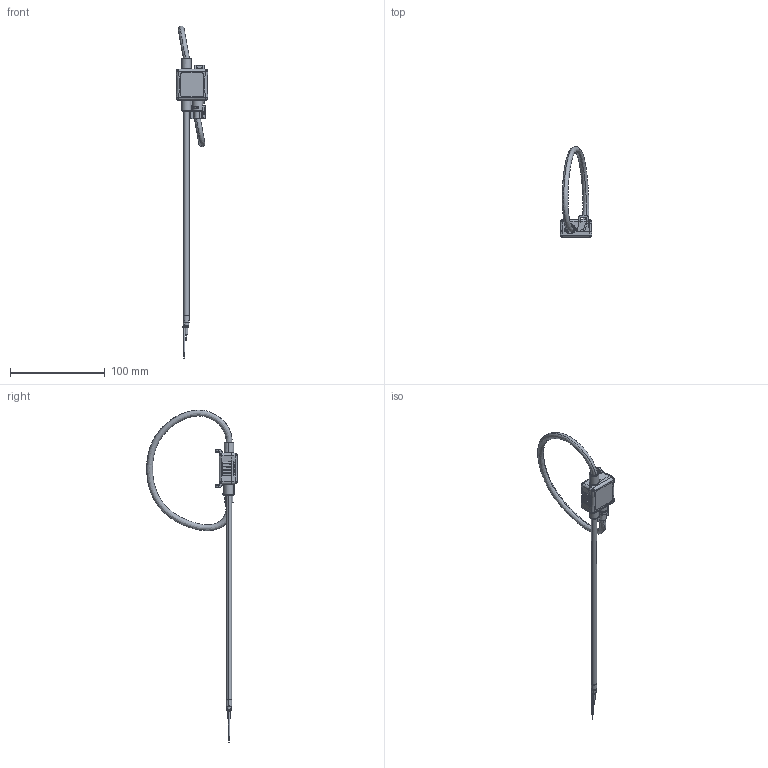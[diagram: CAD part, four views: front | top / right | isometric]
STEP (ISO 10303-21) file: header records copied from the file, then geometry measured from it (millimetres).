
FILE_DESCRIPTION(('Creo Elements/Direct Modeling STEP Export'),'2;1');
FILE_NAME('ART_B22_D070.stp','2016-05-20T19:33:29',(''),(''),'PTC Creo Elements/Direct Modeling STEP processor for AP214 (Solid Model)','PTC Creo Elements/Direct Modeling 19.0B 21-Mar-2015 (C) Parametric Technology GmbH','');
FILE_SCHEMA(('AUTOMOTIVE_DESIGN { 1 0 10303 214 1 1 1 1 }'));
Products named in the file (2): blackbox_dia70
Assembly tree (1 placements, depth 2):
  blackbox_dia70
    blackbox_dia70
Bounding box: 33.69 x 95.81 x 350.43 mm (x, y, z)
Volume: 37380.5 mm3; surface area: 18776.3 mm2
Topology: 1 solids, 19 shells, 1566 faces, 4134 edges, 2598 vertices
Faces by surface type: plane 739, bspline 378, cylinder 273, torus 110, cone 41, extrusion 20, sphere 5
Entity records: 104995 total; most frequent: CARTESIAN_POINT 70610, ORIENTED_EDGE 8252, DIRECTION 5500, EDGE_CURVE 4123, VERTEX_POINT 2598, VECTOR 2194, LINE 2174, AXIS2_PLACEMENT_3D 1653
